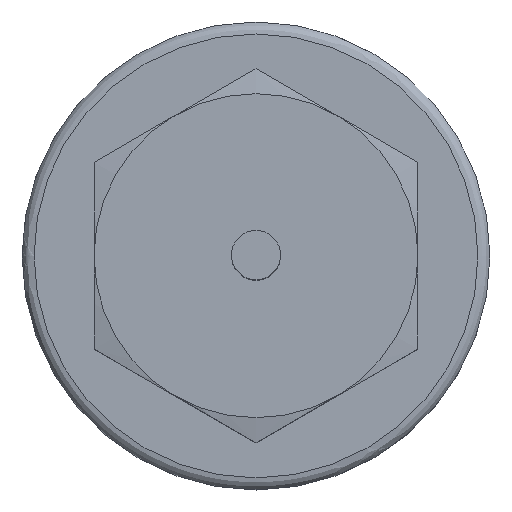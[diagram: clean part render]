
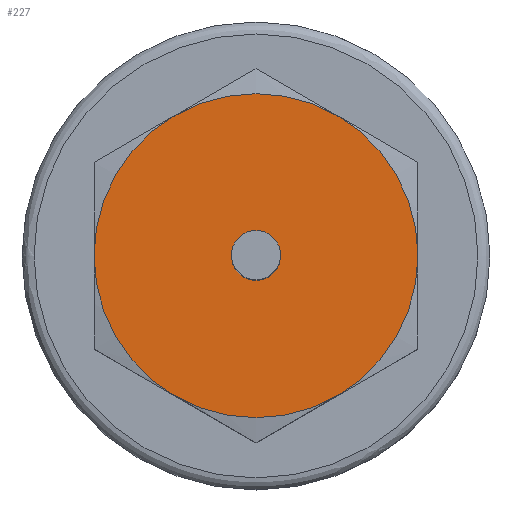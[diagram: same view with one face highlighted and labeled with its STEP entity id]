
A CAD part, top view. The second image highlights one B-rep face of the part: STEP entity #227.
In plain terms, the highlighted planar face has unit normal (0, 0, 1).
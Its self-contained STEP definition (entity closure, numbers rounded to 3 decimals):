
#60=FACE_BOUND('',#359,.T.);
#61=FACE_BOUND('',#360,.T.);
#153=CIRCLE('',#925,13.5);
#154=CIRCLE('',#927,13.5);
#155=CIRCLE('',#929,13.5);
#156=CIRCLE('',#931,13.5);
#157=CIRCLE('',#933,13.5);
#158=CIRCLE('',#935,13.5);
#163=CIRCLE('',#944,2.05);
#227=ADVANCED_FACE('',(#60,#61),#282,.F.);
#282=PLANE('',#945);
#359=EDGE_LOOP('',(#485));
#360=EDGE_LOOP('',(#486,#487,#488,#489,#490,#491));
#485=ORIENTED_EDGE('',*,*,#785,.T.);
#486=ORIENTED_EDGE('',*,*,#773,.T.);
#487=ORIENTED_EDGE('',*,*,#770,.T.);
#488=ORIENTED_EDGE('',*,*,#767,.T.);
#489=ORIENTED_EDGE('',*,*,#764,.T.);
#490=ORIENTED_EDGE('',*,*,#761,.T.);
#491=ORIENTED_EDGE('',*,*,#759,.T.);
#677=VERTEX_POINT('',#1367);
#678=VERTEX_POINT('',#1372);
#680=VERTEX_POINT('',#1381);
#682=VERTEX_POINT('',#1393);
#684=VERTEX_POINT('',#1405);
#686=VERTEX_POINT('',#1417);
#698=VERTEX_POINT('',#1479);
#759=EDGE_CURVE('',#677,#678,#153,.T.);
#761=EDGE_CURVE('',#680,#677,#154,.T.);
#764=EDGE_CURVE('',#682,#680,#155,.T.);
#767=EDGE_CURVE('',#684,#682,#156,.T.);
#770=EDGE_CURVE('',#686,#684,#157,.T.);
#773=EDGE_CURVE('',#678,#686,#158,.T.);
#785=EDGE_CURVE('',#698,#698,#163,.T.);
#925=AXIS2_PLACEMENT_3D('',#1373,#1071,#1072);
#927=AXIS2_PLACEMENT_3D('',#1380,#1075,#1076);
#929=AXIS2_PLACEMENT_3D('',#1392,#1079,#1080);
#931=AXIS2_PLACEMENT_3D('',#1404,#1083,#1084);
#933=AXIS2_PLACEMENT_3D('',#1416,#1087,#1088);
#935=AXIS2_PLACEMENT_3D('',#1428,#1091,#1092);
#944=AXIS2_PLACEMENT_3D('',#1478,#1115,#1116);
#945=AXIS2_PLACEMENT_3D('',#1480,#1117,#1118);
#1071=DIRECTION('',(0.,0.,1.));
#1072=DIRECTION('',(0.,-1.,0.));
#1075=DIRECTION('',(0.,0.,1.));
#1076=DIRECTION('',(0.,-1.,0.));
#1079=DIRECTION('',(0.,0.,1.));
#1080=DIRECTION('',(0.,-1.,0.));
#1083=DIRECTION('',(0.,0.,1.));
#1084=DIRECTION('',(0.,-1.,0.));
#1087=DIRECTION('',(0.,0.,1.));
#1088=DIRECTION('',(0.,-1.,0.));
#1091=DIRECTION('',(0.,0.,1.));
#1092=DIRECTION('',(0.,-1.,0.));
#1115=DIRECTION('',(0.,0.,-1.));
#1116=DIRECTION('',(-1.,0.,0.));
#1117=DIRECTION('',(0.,0.,-1.));
#1118=DIRECTION('',(0.,-1.,0.));
#1367=CARTESIAN_POINT('',(-6.75,11.691,0.));
#1372=CARTESIAN_POINT('',(-13.5,0.,0.));
#1373=CARTESIAN_POINT('',(0.,0.,0.));
#1380=CARTESIAN_POINT('',(0.,0.,0.));
#1381=CARTESIAN_POINT('',(6.75,11.691,0.));
#1392=CARTESIAN_POINT('',(0.,0.,0.));
#1393=CARTESIAN_POINT('',(13.5,0.,0.));
#1404=CARTESIAN_POINT('',(0.,0.,0.));
#1405=CARTESIAN_POINT('',(6.75,-11.691,0.));
#1416=CARTESIAN_POINT('',(0.,0.,0.));
#1417=CARTESIAN_POINT('',(-6.75,-11.691,0.));
#1428=CARTESIAN_POINT('',(0.,0.,0.));
#1478=CARTESIAN_POINT('',(0.,0.,0.));
#1479=CARTESIAN_POINT('',(-2.05,0.,0.));
#1480=CARTESIAN_POINT('',(0.,-4.,0.));
